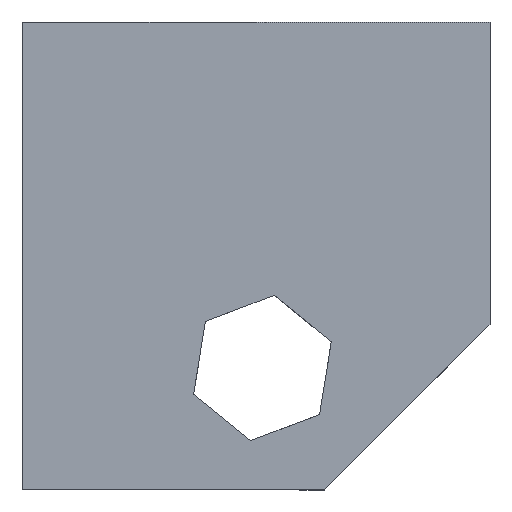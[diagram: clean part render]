
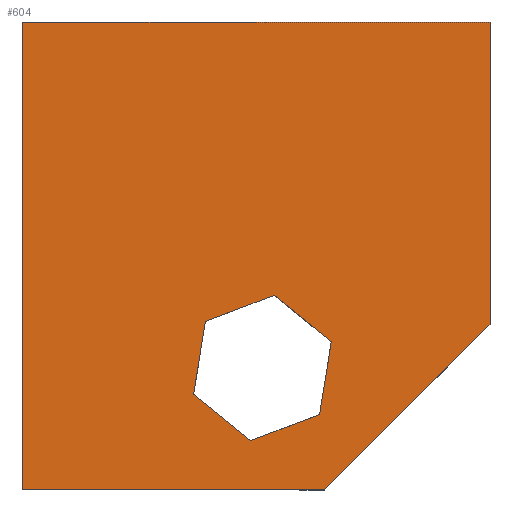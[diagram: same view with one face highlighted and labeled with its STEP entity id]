
A CAD part, left-side view. The second image highlights one B-rep face of the part: STEP entity #604.
In plain terms, the highlighted planar face has unit normal (-1, 0, 0).
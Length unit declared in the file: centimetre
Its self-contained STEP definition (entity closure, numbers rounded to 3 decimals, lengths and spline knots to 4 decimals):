
#4 = LINE ( 'NONE', #593, #823 ) ;
#12 = LINE ( 'NONE', #492, #600 ) ;
#18 = EDGE_CURVE ( 'NONE', #372, #665, #4, .T. ) ;
#28 = CARTESIAN_POINT ( 'NONE',  ( 0., 1000., 0. ) ) ;
#33 = CARTESIAN_POINT ( 'NONE',  ( 0., 1000., 1000. ) ) ;
#36 = FACE_OUTER_BOUND ( 'NONE', #265, .T. ) ;
#37 = VECTOR ( 'NONE', #830, 100. ) ;
#43 = DIRECTION ( 'NONE',  ( 0., 0., -1. ) ) ;
#52 = DIRECTION ( 'NONE',  ( 0., -0.775, -0.632 ) ) ;
#57 = EDGE_CURVE ( 'NONE', #472, #215, #97, .T. ) ;
#61 = EDGE_CURVE ( 'NONE', #665, #527, #363, .T. ) ;
#62 = CARTESIAN_POINT ( 'NONE',  ( 0., 339.0761, 316.545 ) ) ;
#66 = DIRECTION ( 'NONE',  ( 0., -0.935, 0.355 ) ) ;
#70 = VECTOR ( 'NONE', #122, 100. ) ;
#73 = CARTESIAN_POINT ( 'NONE',  ( 0., 1000., 0. ) ) ;
#93 = DIRECTION ( 'NONE',  ( 0., 0.935, -0.355 ) ) ;
#97 = LINE ( 'NONE', #562, #421 ) ;
#111 = CARTESIAN_POINT ( 'NONE',  ( 0., 0., 354.0814 ) ) ;
#115 = CARTESIAN_POINT ( 'NONE',  ( 0., 0., 354.0814 ) ) ;
#122 = DIRECTION ( 'NONE',  ( 0., -0.707, 0.707 ) ) ;
#139 = VERTEX_POINT ( 'NONE', #281 ) ;
#155 = VECTOR ( 'NONE', #757, 100. ) ;
#176 = LINE ( 'NONE', #260, #644 ) ;
#192 = ORIENTED_EDGE ( 'NONE', *, *, #643, .F. ) ;
#199 = VECTOR ( 'NONE', #520, 100. ) ;
#204 = LINE ( 'NONE', #726, #338 ) ;
#215 = VERTEX_POINT ( 'NONE', #376 ) ;
#230 = AXIS2_PLACEMENT_3D ( 'NONE', #379, #642, #43 ) ;
#260 = CARTESIAN_POINT ( 'NONE',  ( 0., 0., 1000. ) ) ;
#262 = LINE ( 'NONE', #375, #199 ) ;
#264 = ORIENTED_EDGE ( 'NONE', *, *, #595, .F. ) ;
#265 = EDGE_LOOP ( 'NONE', ( #330, #865, #264, #633, #685 ) ) ;
#266 = DIRECTION ( 'NONE',  ( 0., 0.775, 0.632 ) ) ;
#270 = VECTOR ( 'NONE', #266, 100. ) ;
#280 = EDGE_CURVE ( 'NONE', #433, #139, #303, .T. ) ;
#281 = CARTESIAN_POINT ( 'NONE',  ( 0., 511.4122, 105.4059 ) ) ;
#297 = LINE ( 'NONE', #33, #155 ) ;
#303 = LINE ( 'NONE', #652, #741 ) ;
#307 = PLANE ( 'NONE',  #230 ) ;
#323 = EDGE_CURVE ( 'NONE', #372, #850, #297, .T. ) ;
#330 = ORIENTED_EDGE ( 'NONE', *, *, #61, .T. ) ;
#338 = VECTOR ( 'NONE', #66, 100. ) ;
#357 = DIRECTION ( 'NONE',  ( 0., 0.16, -0.987 ) ) ;
#363 = LINE ( 'NONE', #28, #37 ) ;
#364 = ORIENTED_EDGE ( 'NONE', *, *, #280, .F. ) ;
#372 = VERTEX_POINT ( 'NONE', #833 ) ;
#375 = CARTESIAN_POINT ( 'NONE',  ( 0., 364.2936, 161.2263 ) ) ;
#376 = CARTESIAN_POINT ( 'NONE',  ( 0., 608.096, 360.2228 ) ) ;
#379 = CARTESIAN_POINT ( 'NONE',  ( 0., 1000., 1000. ) ) ;
#415 = CARTESIAN_POINT ( 'NONE',  ( 0., 364.2936, 161.2263 ) ) ;
#419 = CARTESIAN_POINT ( 'NONE',  ( 0., 0., 1000. ) ) ;
#421 = VECTOR ( 'NONE', #93, 100. ) ;
#425 = CARTESIAN_POINT ( 'NONE',  ( 0., 633.3134, 204.9042 ) ) ;
#433 = VERTEX_POINT ( 'NONE', #425 ) ;
#443 = ORIENTED_EDGE ( 'NONE', *, *, #57, .F. ) ;
#454 = CARTESIAN_POINT ( 'NONE',  ( 0., 354.0814, 0. ) ) ;
#469 = EDGE_CURVE ( 'NONE', #215, #433, #12, .T. ) ;
#472 = VERTEX_POINT ( 'NONE', #621 ) ;
#490 = VERTEX_POINT ( 'NONE', #584 ) ;
#492 = CARTESIAN_POINT ( 'NONE',  ( 0., 608.096, 360.2228 ) ) ;
#508 = EDGE_CURVE ( 'NONE', #623, #490, #262, .T. ) ;
#510 = ORIENTED_EDGE ( 'NONE', *, *, #632, .F. ) ;
#520 = DIRECTION ( 'NONE',  ( 0., -0.16, 0.987 ) ) ;
#527 = VERTEX_POINT ( 'NONE', #454 ) ;
#541 = LINE ( 'NONE', #62, #270 ) ;
#543 = EDGE_CURVE ( 'NONE', #527, #610, #777, .T. ) ;
#562 = CARTESIAN_POINT ( 'NONE',  ( 0., 460.9773, 416.0432 ) ) ;
#567 = ORIENTED_EDGE ( 'NONE', *, *, #469, .F. ) ;
#584 = CARTESIAN_POINT ( 'NONE',  ( 0., 339.0761, 316.545 ) ) ;
#593 = CARTESIAN_POINT ( 'NONE',  ( 0., 1000., 1000. ) ) ;
#595 = EDGE_CURVE ( 'NONE', #850, #610, #176, .T. ) ;
#600 = VECTOR ( 'NONE', #357, 100. ) ;
#604 = ADVANCED_FACE ( 'NONE', ( #715, #36 ), #307, .F. ) ;
#610 = VERTEX_POINT ( 'NONE', #115 ) ;
#621 = CARTESIAN_POINT ( 'NONE',  ( 0., 460.9773, 416.0432 ) ) ;
#623 = VERTEX_POINT ( 'NONE', #415 ) ;
#632 = EDGE_CURVE ( 'NONE', #139, #623, #204, .T. ) ;
#633 = ORIENTED_EDGE ( 'NONE', *, *, #323, .F. ) ;
#639 = DIRECTION ( 'NONE',  ( 0., 0., -1. ) ) ;
#642 = DIRECTION ( 'NONE',  ( 1., 0., 0. ) ) ;
#643 = EDGE_CURVE ( 'NONE', #490, #472, #541, .T. ) ;
#644 = VECTOR ( 'NONE', #639, 100. ) ;
#652 = CARTESIAN_POINT ( 'NONE',  ( 0., 633.3134, 204.9042 ) ) ;
#665 = VERTEX_POINT ( 'NONE', #73 ) ;
#685 = ORIENTED_EDGE ( 'NONE', *, *, #18, .T. ) ;
#715 = FACE_BOUND ( 'NONE', #822, .T. ) ;
#726 = CARTESIAN_POINT ( 'NONE',  ( 0., 511.4122, 105.4059 ) ) ;
#741 = VECTOR ( 'NONE', #52, 100. ) ;
#757 = DIRECTION ( 'NONE',  ( 0., -1., 0. ) ) ;
#777 = LINE ( 'NONE', #111, #70 ) ;
#822 = EDGE_LOOP ( 'NONE', ( #567, #443, #192, #831, #510, #364 ) ) ;
#823 = VECTOR ( 'NONE', #858, 100. ) ;
#830 = DIRECTION ( 'NONE',  ( 0., -1., 0. ) ) ;
#831 = ORIENTED_EDGE ( 'NONE', *, *, #508, .F. ) ;
#833 = CARTESIAN_POINT ( 'NONE',  ( 0., 1000., 1000. ) ) ;
#850 = VERTEX_POINT ( 'NONE', #419 ) ;
#858 = DIRECTION ( 'NONE',  ( 0., 0., -1. ) ) ;
#865 = ORIENTED_EDGE ( 'NONE', *, *, #543, .T. ) ;
